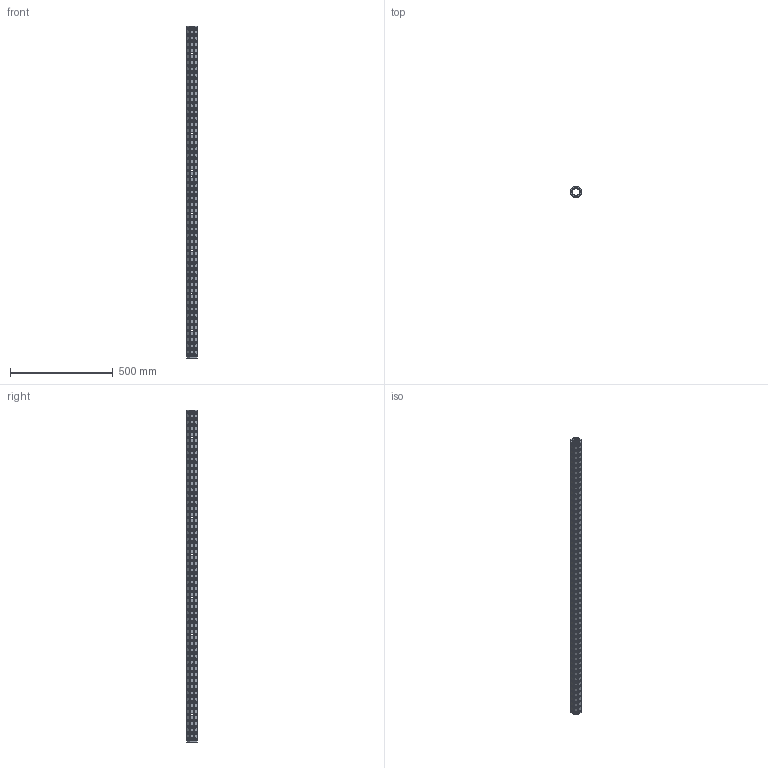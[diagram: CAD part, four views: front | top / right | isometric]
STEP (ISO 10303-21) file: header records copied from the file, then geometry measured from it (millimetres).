
FILE_DESCRIPTION(('CATIA V5 STEP Exchange'),'2;1');
FILE_NAME('U:\Room\唐宝山\EGT002\46-01-010283-01-EGT002-1618.stp','2021-08-24T01:31:55+00:00',('none'),('none'),'CATIA Version 5 Release 21 GA (IN-10)','CATIA V5 STEP AP203','none');
FILE_SCHEMA(('CONFIG_CONTROL_DESIGN'));
Products named in the file (1): 46-01-010283-01-EGT002-1618
Bounding box: 50 x 50 x 1618 mm (x, y, z)
Volume: 1152763.8 mm3; surface area: 556106.2 mm2
Topology: 1 solids, 1 shells, 2244 faces, 6186 edges, 3836 vertices
Faces by surface type: cone 1296, cylinder 922, plane 26
Entity records: 91525 total; most frequent: CARTESIAN_POINT 37140, ORIENTED_EDGE 12372, DIRECTION 8754, EDGE_CURVE 6186, AXIS2_PLACEMENT_3D 4113, VERTEX_POINT 3836, EDGE_LOOP 3002, VECTOR 2398
